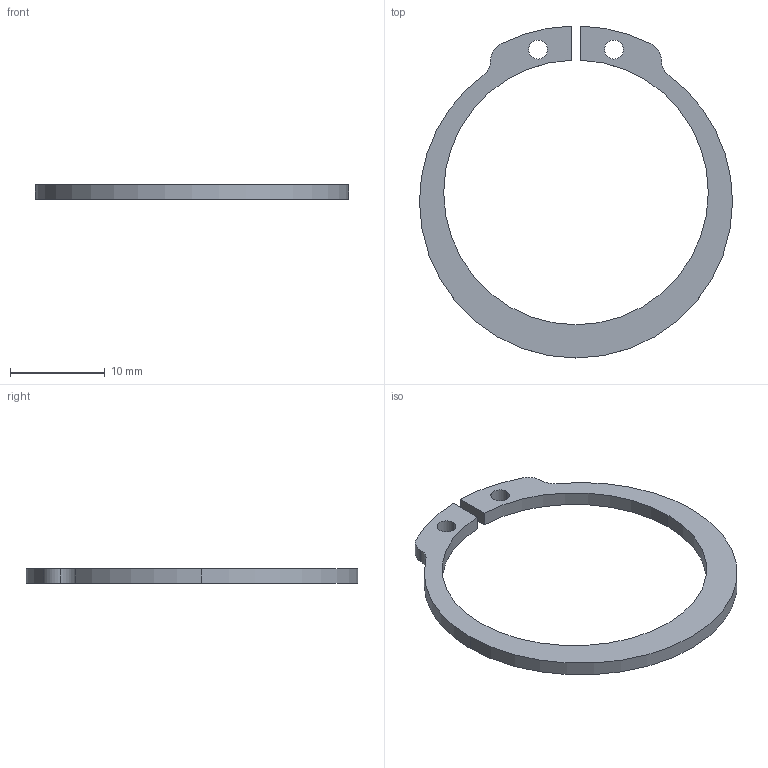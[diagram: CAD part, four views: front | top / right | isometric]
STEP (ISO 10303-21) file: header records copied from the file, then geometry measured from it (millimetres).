
FILE_DESCRIPTION(('CATIA V5 STEP Exchange'),'2;1');
FILE_NAME('C:\Users\Utente\Desktop\IO LAVORO\3D X SITO CF\X SITO\PLASTICA\553S\553S-R30.stp','2021-04-21T09:21:29+00:00',('none'),('none'),'CATIA Version 5 Release 20 GA (IN-10)','CATIA V5 STEP AP203','none');
FILE_SCHEMA(('CONFIG_CONTROL_DESIGN'));
Length unit declared in the file: millimetre
Products named in the file (1): 553S-R30
Bounding box: 33 x 34.99 x 1.5 mm (x, y, z)
Volume: 406.3 mm3; surface area: 860.8 mm2
Topology: 1 solids, 1 shells, 22 faces, 60 edges, 40 vertices
Faces by surface type: cylinder 16, plane 6
Entity records: 724 total; most frequent: CARTESIAN_POINT 121, ORIENTED_EDGE 120, DIRECTION 100, EDGE_CURVE 60, AXIS2_PLACEMENT_3D 53, VERTEX_POINT 40, CIRCLE 32, VECTOR 28
